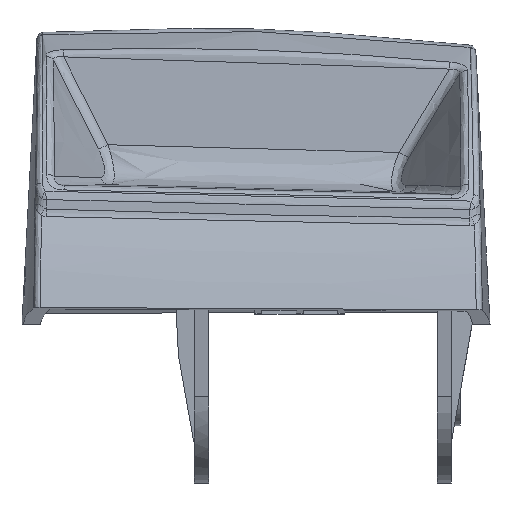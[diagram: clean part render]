
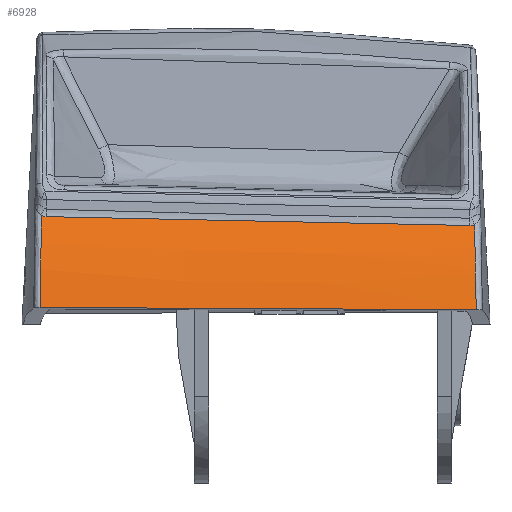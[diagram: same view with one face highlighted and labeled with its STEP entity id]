
A CAD part, top view. The second image highlights one B-rep face of the part: STEP entity #6928.
In plain terms, the highlighted free-form (B-spline) face has degree [3, 3] with [4, 4] control points.
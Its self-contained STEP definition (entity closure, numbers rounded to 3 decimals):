
#2256=CARTESIAN_POINT('Vertex',(2068.429,78.047,453.972)) ;
#2260=CARTESIAN_POINT('Control Point',(2068.429,78.047,453.972)) ;
#2261=CARTESIAN_POINT('Control Point',(2053.306,78.123,454.791)) ;
#2262=CARTESIAN_POINT('Control Point',(2038.183,78.198,455.594)) ;
#2263=CARTESIAN_POINT('Control Point',(2023.059,78.273,456.396)) ;
#2264=CARTESIAN_POINT('Control Point',(2007.936,78.348,457.207)) ;
#2265=CARTESIAN_POINT('Control Point',(1992.814,78.426,458.041)) ;
#2266=CARTESIAN_POINT('Vertex',(1992.814,78.426,458.041)) ;
#6774=CARTESIAN_POINT('Control Point',(2068.21,88.998,449.859)) ;
#6775=CARTESIAN_POINT('Control Point',(2068.194,90.257,449.264)) ;
#6776=CARTESIAN_POINT('Control Point',(2068.179,91.52,448.623)) ;
#6777=CARTESIAN_POINT('Control Point',(2068.164,92.778,447.933)) ;
#6778=CARTESIAN_POINT('Vertex',(2068.21,88.998,449.859)) ;
#6780=CARTESIAN_POINT('Vertex',(2068.164,92.778,447.933)) ;
#6784=CARTESIAN_POINT('Control Point',(2068.236,87.063,450.739)) ;
#6785=CARTESIAN_POINT('Control Point',(2068.227,87.701,450.46)) ;
#6786=CARTESIAN_POINT('Control Point',(2068.218,88.362,450.159)) ;
#6787=CARTESIAN_POINT('Control Point',(2068.21,88.998,449.859)) ;
#6788=CARTESIAN_POINT('Vertex',(2068.236,87.063,450.739)) ;
#6792=CARTESIAN_POINT('Control Point',(2068.266,85.216,451.517)) ;
#6793=CARTESIAN_POINT('Control Point',(2068.255,85.822,451.271)) ;
#6794=CARTESIAN_POINT('Control Point',(2068.245,86.439,451.012)) ;
#6795=CARTESIAN_POINT('Control Point',(2068.236,87.063,450.739)) ;
#6796=CARTESIAN_POINT('Vertex',(2068.266,85.216,451.517)) ;
#6800=CARTESIAN_POINT('Control Point',(2068.281,84.407,451.839)) ;
#6801=CARTESIAN_POINT('Control Point',(2068.275,84.681,451.732)) ;
#6802=CARTESIAN_POINT('Control Point',(2068.271,84.928,451.633)) ;
#6803=CARTESIAN_POINT('Control Point',(2068.266,85.216,451.517)) ;
#6804=CARTESIAN_POINT('Vertex',(2068.281,84.407,451.839)) ;
#6808=CARTESIAN_POINT('Control Point',(2068.429,78.047,453.973)) ;
#6809=CARTESIAN_POINT('Control Point',(2068.394,79.285,453.632)) ;
#6810=CARTESIAN_POINT('Control Point',(2068.36,80.581,453.234)) ;
#6811=CARTESIAN_POINT('Control Point',(2068.331,81.885,452.793)) ;
#6812=CARTESIAN_POINT('Control Point',(2068.304,83.168,452.324)) ;
#6813=CARTESIAN_POINT('Control Point',(2068.281,84.407,451.839)) ;
#6843=CARTESIAN_POINT('Control Point',(2096.298,75.685,453.001)) ;
#6844=CARTESIAN_POINT('Control Point',(2096.27,82.117,451.549)) ;
#6845=CARTESIAN_POINT('Control Point',(2096.241,93.028,447.371)) ;
#6846=CARTESIAN_POINT('Control Point',(2096.173,101.111,440.634)) ;
#6847=CARTESIAN_POINT('Control Point',(2057.875,76.261,455.07)) ;
#6848=CARTESIAN_POINT('Control Point',(2057.846,82.993,453.507)) ;
#6849=CARTESIAN_POINT('Control Point',(2057.809,94.163,449.088)) ;
#6850=CARTESIAN_POINT('Control Point',(2057.731,102.401,442.053)) ;
#6851=CARTESIAN_POINT('Control Point',(2019.418,76.467,456.998)) ;
#6852=CARTESIAN_POINT('Control Point',(2019.387,83.462,455.387)) ;
#6853=CARTESIAN_POINT('Control Point',(2019.348,94.886,450.834)) ;
#6854=CARTESIAN_POINT('Control Point',(2019.266,103.306,443.595)) ;
#6855=CARTESIAN_POINT('Control Point',(1980.949,76.936,459.093)) ;
#6856=CARTESIAN_POINT('Control Point',(1980.917,84.235,457.387)) ;
#6857=CARTESIAN_POINT('Control Point',(1980.877,95.93,452.619)) ;
#6858=CARTESIAN_POINT('Control Point',(1980.794,104.522,445.103)) ;
#6860=CARTESIAN_POINT('Control Point',(2067.341,92.653,448.049)) ;
#6861=CARTESIAN_POINT('Control Point',(2067.558,92.65,448.038)) ;
#6862=CARTESIAN_POINT('Control Point',(2067.776,92.672,448.013)) ;
#6863=CARTESIAN_POINT('Control Point',(2067.979,92.718,447.976)) ;
#6864=CARTESIAN_POINT('Control Point',(2068.164,92.778,447.933)) ;
#6865=CARTESIAN_POINT('Vertex',(2067.341,92.653,448.049)) ;
#6869=CARTESIAN_POINT('Control Point',(1993.875,94.183,451.469)) ;
#6870=CARTESIAN_POINT('Control Point',(1998.048,94.039,451.301)) ;
#6871=CARTESIAN_POINT('Control Point',(2002.222,93.907,451.127)) ;
#6872=CARTESIAN_POINT('Control Point',(2006.396,93.786,450.949)) ;
#6873=CARTESIAN_POINT('Control Point',(2012.909,93.612,450.665)) ;
#6874=CARTESIAN_POINT('Control Point',(2019.422,93.46,450.371)) ;
#6875=CARTESIAN_POINT('Control Point',(2021.772,93.407,450.263)) ;
#6876=CARTESIAN_POINT('Control Point',(2029.664,93.239,449.9)) ;
#6877=CARTESIAN_POINT('Control Point',(2037.592,93.095,449.522)) ;
#6878=CARTESIAN_POINT('Control Point',(2043.235,93.002,449.249)) ;
#6879=CARTESIAN_POINT('Control Point',(2051.508,92.876,448.842)) ;
#6880=CARTESIAN_POINT('Control Point',(2059.737,92.759,448.431)) ;
#6881=CARTESIAN_POINT('Control Point',(2062.04,92.727,448.316)) ;
#6882=CARTESIAN_POINT('Control Point',(2064.692,92.69,448.182)) ;
#6883=CARTESIAN_POINT('Control Point',(2067.341,92.653,448.049)) ;
#6884=CARTESIAN_POINT('Vertex',(1993.875,94.183,451.469)) ;
#6888=CARTESIAN_POINT('Control Point',(1992.986,94.366,451.419)) ;
#6889=CARTESIAN_POINT('Control Point',(1993.186,94.29,451.45)) ;
#6890=CARTESIAN_POINT('Control Point',(1993.403,94.228,451.472)) ;
#6891=CARTESIAN_POINT('Control Point',(1993.639,94.191,451.478)) ;
#6892=CARTESIAN_POINT('Control Point',(1993.875,94.183,451.469)) ;
#6893=CARTESIAN_POINT('Vertex',(1992.986,94.366,451.419)) ;
#6897=CARTESIAN_POINT('Control Point',(1992.814,78.426,458.041)) ;
#6898=CARTESIAN_POINT('Control Point',(1992.855,80.118,457.58)) ;
#6899=CARTESIAN_POINT('Control Point',(1992.892,81.951,457.004)) ;
#6900=CARTESIAN_POINT('Control Point',(1992.923,83.885,456.318)) ;
#6901=CARTESIAN_POINT('Control Point',(1992.955,86.615,455.236)) ;
#6902=CARTESIAN_POINT('Control Point',(1992.972,89.383,453.977)) ;
#6903=CARTESIAN_POINT('Control Point',(1992.975,90.167,453.607)) ;
#6904=CARTESIAN_POINT('Control Point',(1992.978,91.073,453.164)) ;
#6905=CARTESIAN_POINT('Control Point',(1992.98,91.979,452.701)) ;
#6906=CARTESIAN_POINT('Control Point',(1992.981,92.168,452.604)) ;
#6907=CARTESIAN_POINT('Control Point',(1992.982,92.587,452.387)) ;
#6908=CARTESIAN_POINT('Control Point',(1992.983,93.005,452.165)) ;
#6909=CARTESIAN_POINT('Control Point',(1992.983,93.194,452.063)) ;
#6910=CARTESIAN_POINT('Control Point',(1992.984,93.517,451.889)) ;
#6911=CARTESIAN_POINT('Control Point',(1992.985,93.84,451.712)) ;
#6912=CARTESIAN_POINT('Control Point',(1992.985,94.015,451.615)) ;
#6913=CARTESIAN_POINT('Control Point',(1992.986,94.191,451.518)) ;
#6914=CARTESIAN_POINT('Control Point',(1992.986,94.366,451.419)) ;
#2268=EDGE_CURVE('',#2257,#2267,#2259,.T.) ;
#6782=EDGE_CURVE('',#6779,#6781,#6773,.T.) ;
#6790=EDGE_CURVE('',#6789,#6779,#6783,.T.) ;
#6798=EDGE_CURVE('',#6797,#6789,#6791,.T.) ;
#6806=EDGE_CURVE('',#6805,#6797,#6799,.T.) ;
#6814=EDGE_CURVE('',#2257,#6805,#6807,.T.) ;
#6867=EDGE_CURVE('',#6866,#6781,#6859,.T.) ;
#6886=EDGE_CURVE('',#6885,#6866,#6868,.T.) ;
#6895=EDGE_CURVE('',#6894,#6885,#6887,.T.) ;
#6915=EDGE_CURVE('',#2267,#6894,#6896,.T.) ;
#6917=ORIENTED_EDGE('',*,*,#6867,.F.) ;
#6918=ORIENTED_EDGE('',*,*,#6886,.F.) ;
#6919=ORIENTED_EDGE('',*,*,#6895,.F.) ;
#6920=ORIENTED_EDGE('',*,*,#6915,.F.) ;
#6921=ORIENTED_EDGE('',*,*,#2268,.F.) ;
#6922=ORIENTED_EDGE('',*,*,#6814,.T.) ;
#6923=ORIENTED_EDGE('',*,*,#6806,.T.) ;
#6924=ORIENTED_EDGE('',*,*,#6798,.T.) ;
#6925=ORIENTED_EDGE('',*,*,#6790,.T.) ;
#6926=ORIENTED_EDGE('',*,*,#6782,.T.) ;
#6928=ADVANCED_FACE('\X2\5347964D624B67C4\X0\2',(#6927),#6842,.F.) ;
#2257=VERTEX_POINT('',#2256) ;
#2267=VERTEX_POINT('',#2266) ;
#6779=VERTEX_POINT('',#6778) ;
#6781=VERTEX_POINT('',#6780) ;
#6789=VERTEX_POINT('',#6788) ;
#6797=VERTEX_POINT('',#6796) ;
#6805=VERTEX_POINT('',#6804) ;
#6866=VERTEX_POINT('',#6865) ;
#6885=VERTEX_POINT('',#6884) ;
#6894=VERTEX_POINT('',#6893) ;
#2259=B_SPLINE_CURVE_WITH_KNOTS('',5,(#2260,#2261,#2262,#2263,#2264,#2265),.UNSPECIFIED.,.F.,.U.,(6,6),(0.,107.091),.UNSPECIFIED.) ;
#6773=B_SPLINE_CURVE_WITH_KNOTS('',3,(#6774,#6775,#6776,#6777),.UNSPECIFIED.,.F.,.U.,(4,4),(0.,5.663),.UNSPECIFIED.) ;
#6783=B_SPLINE_CURVE_WITH_KNOTS('',3,(#6784,#6785,#6786,#6787),.UNSPECIFIED.,.F.,.U.,(4,4),(0.,2.863),.UNSPECIFIED.) ;
#6791=B_SPLINE_CURVE_WITH_KNOTS('',3,(#6792,#6793,#6794,#6795),.UNSPECIFIED.,.F.,.U.,(4,4),(0.,2.801),.UNSPECIFIED.) ;
#6799=B_SPLINE_CURVE_WITH_KNOTS('',3,(#6800,#6801,#6802,#6803),.UNSPECIFIED.,.F.,.U.,(4,4),(0.,1.329),.UNSPECIFIED.) ;
#6807=B_SPLINE_CURVE_WITH_KNOTS('',5,(#6808,#6809,#6810,#6811,#6812,#6813),.UNSPECIFIED.,.F.,.U.,(6,6),(0.,10.006),.UNSPECIFIED.) ;
#6859=B_SPLINE_CURVE_WITH_KNOTS('',4,(#6860,#6861,#6862,#6863,#6864),.UNSPECIFIED.,.F.,.U.,(5,5),(0.,1.196),.UNSPECIFIED.) ;
#6868=B_SPLINE_CURVE_WITH_KNOTS('',5,(#6869,#6870,#6871,#6872,#6873,#6874,#6875,#6876,#6877,#6878,#6879,#6880,#6881,#6882,#6883),.UNSPECIFIED.,.F.,.U.,(6,3,3,3,6),(0.,29.637,46.253,85.707,104.517),.UNSPECIFIED.) ;
#6887=B_SPLINE_CURVE_WITH_KNOTS('',4,(#6888,#6889,#6890,#6891,#6892),.UNSPECIFIED.,.F.,.U.,(5,5),(0.,1.291),.UNSPECIFIED.) ;
#6896=B_SPLINE_CURVE_WITH_KNOTS('',5,(#6897,#6898,#6899,#6900,#6901,#6902,#6903,#6904,#6905,#6906,#6907,#6908,#6909,#6910,#6911,#6912,#6913,#6914),.UNSPECIFIED.,.F.,.U.,(6,3,3,3,3,6),(0.,14.933,20.55,21.645,22.74,24.038),.UNSPECIFIED.) ;
#6842=B_SPLINE_SURFACE_WITH_KNOTS('',3,3,((#6843,#6844,#6845,#6846),(#6847,#6848,#6849,#6850),(#6851,#6852,#6853,#6854),(#6855,#6856,#6857,#6858)),.UNSPECIFIED.,.F.,.F.,.U.,(4,4),(4,4),(0.,115.52),(0.,30.17),.UNSPECIFIED.) ;
#6916=EDGE_LOOP('',(#6917,#6918,#6919,#6920,#6921,#6922,#6923,#6924,#6925,#6926)) ;
#6927=FACE_OUTER_BOUND('',#6916,.T.) ;
